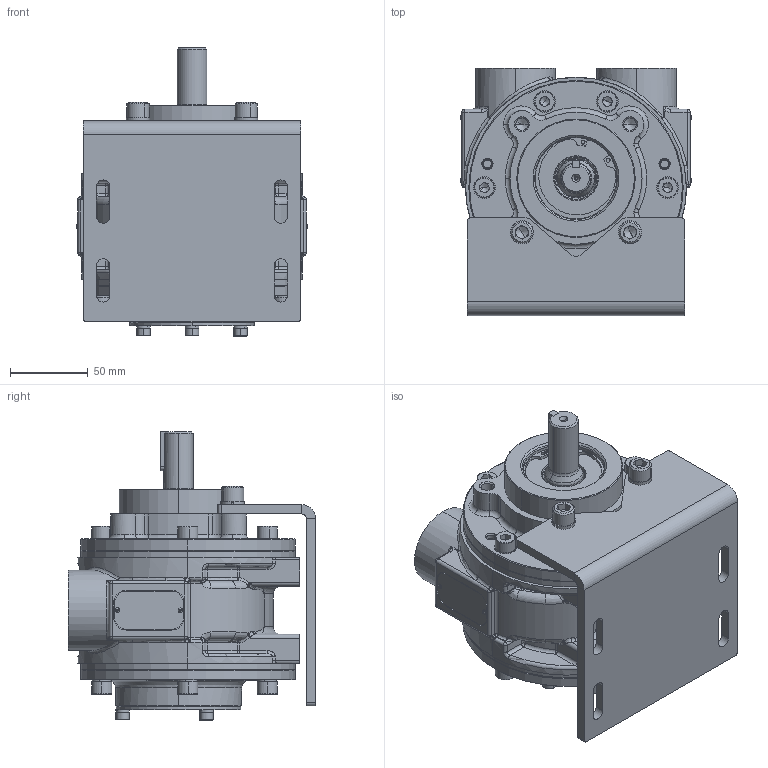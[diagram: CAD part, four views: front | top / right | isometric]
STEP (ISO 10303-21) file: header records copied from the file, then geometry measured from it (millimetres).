
FILE_DESCRIPTION (( 'STEP AP214' ), '1' );
FILE_NAME ('8VMS-Foot-SGI (22-04-26).STEP', '2026-04-23T06:11:32', ( '' ), ( '' ), 'SwSTEP 2.0', 'SolidWorks 2017', '' );
FILE_SCHEMA (( 'AUTOMOTIVE_DESIGN' ));
Length unit declared in the file: millimetre
Products named in the file (2): 8VMS-Foot-SGI (22-04-26)
Bounding box: 148.6 x 159.4 x 185.53 mm (x, y, z)
Volume: 862064.6 mm3; surface area: 285208.9 mm2
Topology: 50 solids, 51 shells, 1668 faces, 3936 edges, 2293 vertices
Faces by surface type: cylinder 520, plane 481, cone 277, torus 200, bspline 158, sphere 32
Entity records: 398769 total; most frequent: CARTESIAN_POINT 203958, ORIENTED_EDGE 30216, DIRECTION 21303, EDGE_CURVE 15108, VERTEX_POINT 9697, EDGE_LOOP 8727, AXIS2_PLACEMENT_3D 7941, B_SPLINE_CURVE_WITH_KNOTS 7065
